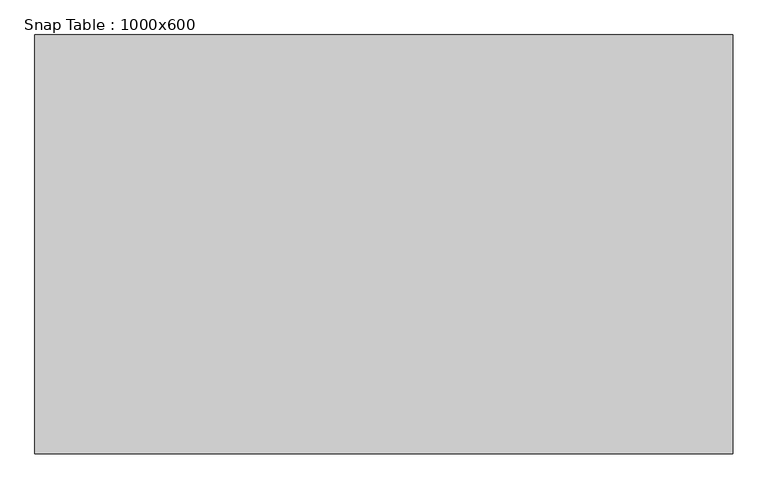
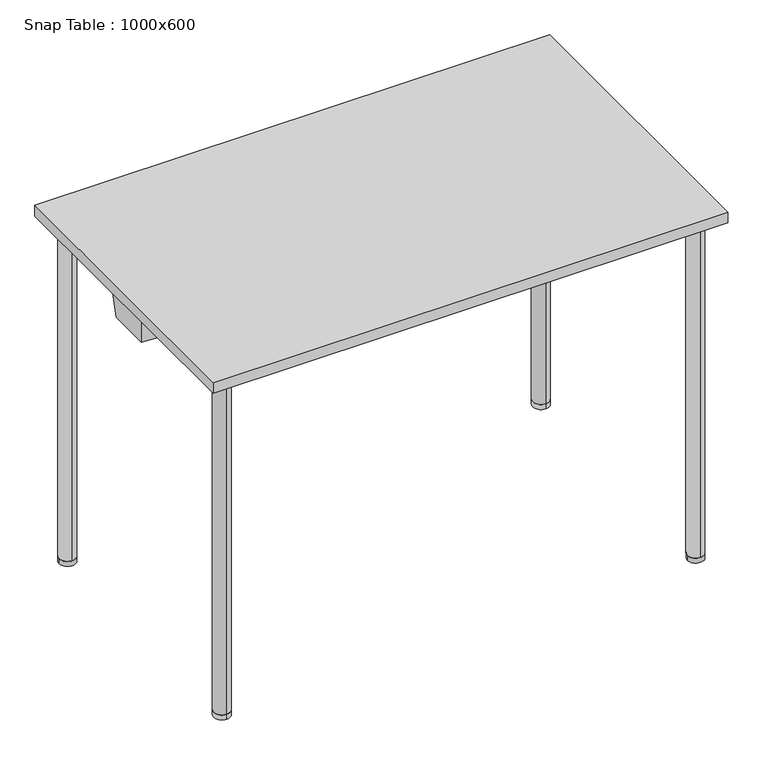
"""IFC4 building model written with IfcOpenShell, lengths in millimetres: furniture geometry, Snap Table : 1000x600."""

from ifc_helpers import new_model, si_unit, point, frame, frame_2d, origin, origin_with_axes, place, context, project, spatial, polyline, circle_curve, ellipse_curve, trimmed, segment, composite_curve, outline, extrude, faceted_brep, source, transform, mapped, element, save
from ifc_brep_helpers import plane_surface, cylinder_surface, revolved_surface, advanced_brep


def snap_table_1000x600_b32a0810(model_context):
    return source(origin(), model_context, "Body", "SolidModel", [
        extrude(outline(composite_curve([segment(trimmed(circle_curve(frame_2d((460.0, -260.0)), 16.0), [point((476.0, -260.0))], [point((444.0, -260.0))], False, "CARTESIAN"), True, "CONTINUOUS"), segment(trimmed(circle_curve(frame_2d((460.0, -260.0)), 16.0), [point((444.0, -260.0))], [point((476.0, -260.0))], False, "CARTESIAN"), True, "CONTINUOUS")], self_intersect=False)), origin_with_axes(), (0.0, 0.0, 1.0), 10.0),
        extrude(outline(composite_curve([segment(trimmed(circle_curve(frame_2d((460.0, 260.0)), 16.0), [point((460.0, 244.0))], [point((460.0, 276.0))], False, "CARTESIAN"), True, "CONTINUOUS"), segment(trimmed(circle_curve(frame_2d((460.0, 260.0)), 16.0), [point((460.0, 276.0))], [point((460.0, 244.0))], False, "CARTESIAN"), True, "CONTINUOUS")], self_intersect=False)), origin_with_axes(), (0.0, 0.0, 1.0), 10.0),
        advanced_brep(
        [(460.0, -276.0, 10.0), (460.0, -244.0, 10.0), (460.0, -276.0, 689.0), (460.0, -244.0, 657.0), (460.0, 276.0, 689.0), (460.0, 244.0, 657.0), (460.0, 276.0, 10.0), (460.0, 244.0, 10.0)],
        [
            (0, 1, circle_curve(frame((460.0, -260.0, 10.0), z_axis=(0.0, 0.0, -1.0), x_axis=(0.0, 1.0, 0.0)), 16.0)),
            (1, 0, circle_curve(frame((460.0, -260.0, 10.0), z_axis=(0.0, 0.0, -1.0), x_axis=(0.0, 1.0, 0.0)), 16.0)),
            (0, 2),
            (2, 3, ellipse_curve(frame((460.0, -260.0, 673.0), z_axis=(0.0, -0.7071067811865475, -0.7071067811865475), x_axis=(0.0, 0.7071067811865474, -0.7071067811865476)), 22.627417, 16.0)),
            (3, 1),
            (3, 2, ellipse_curve(frame((460.0, -260.0, 673.0), z_axis=(0.0, -0.7071067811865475, -0.7071067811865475), x_axis=(0.0, 0.7071067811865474, -0.7071067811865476)), 22.627417, 16.0)),
            (2, 4),
            (4, 5, ellipse_curve(frame((460.0, 260.0, 673.0), z_axis=(0.0, -0.7071067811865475, 0.7071067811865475), x_axis=(0.0, -0.7071067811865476, -0.7071067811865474)), 22.627417, 16.0)),
            (5, 3),
            (5, 4, ellipse_curve(frame((460.0, 260.0, 673.0), z_axis=(0.0, -0.7071067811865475, 0.7071067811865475), x_axis=(0.0, -0.7071067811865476, -0.7071067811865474)), 22.627417, 16.0)),
            (6, 7, circle_curve(frame((460.0, 260.0, 10.0), z_axis=(0.0, 0.0, -1.0), x_axis=(0.0, -1.0, 0.0)), 16.0)),
            (7, 6, circle_curve(frame((460.0, 260.0, 10.0), z_axis=(0.0, 0.0, -1.0), x_axis=(0.0, -1.0, 0.0)), 16.0)),
            (4, 6),
            (7, 5),
        ],
        [
            plane_surface(frame((460.0, -260.0, 10.0), z_axis=(0.0, 0.0, -1.0), x_axis=(-1.0, 0.0, 0.0))),
            cylinder_surface(frame((460.0, -260.0, 10.0), z_axis=(0.0, 0.0, -1.0), x_axis=(0.0, 1.0, 0.0)), 16.0),
            cylinder_surface(frame((460.0, -260.0, 673.0), z_axis=(0.0, -1.0, 0.0), x_axis=(0.0, 0.0, -1.0)), 16.0),
            plane_surface(frame((460.0, 260.0, 10.0), z_axis=(0.0, 0.0, -1.0), x_axis=(-1.0, 0.0, 0.0))),
            cylinder_surface(frame((460.0, 260.0, 673.0), z_axis=(0.0, 0.0, 1.0), x_axis=(0.0, -1.0, 0.0)), 16.0),
        ],
        [
            (0, [[1, 2]]),
            (1, [[-1, 3, 4, 5]]),
            (1, [[-2, -5, 6, -3]]),
            (2, [[-4, 7, 8, 9]]),
            (2, [[-6, -9, 10, -7]]),
            (3, [[11, 12]]),
            (4, [[-8, 13, -12, 14]]),
            (4, [[-10, -14, -11, -13]]),
        ],
    ),
        extrude(outline(composite_curve([segment(trimmed(circle_curve(frame_2d((-460.0470276, 260.0)), 16.0), [point((-476.0470276, 260.0))], [point((-444.0470276, 260.0))], False, "CARTESIAN"), True, "CONTINUOUS"), segment(trimmed(circle_curve(frame_2d((-460.0470276, 260.0)), 16.0), [point((-444.0470276, 260.0))], [point((-476.0470276, 260.0))], False, "CARTESIAN"), True, "CONTINUOUS")], self_intersect=False)), origin_with_axes(), (0.0, 0.0, 1.0), 10.0),
        extrude(outline(composite_curve([segment(trimmed(circle_curve(frame_2d((-460.0470276, -260.0)), 16.0), [point((-460.0470276, -244.0))], [point((-460.0470276, -276.0))], False, "CARTESIAN"), True, "CONTINUOUS"), segment(trimmed(circle_curve(frame_2d((-460.0470276, -260.0)), 16.0), [point((-460.0470276, -276.0))], [point((-460.0470276, -244.0))], False, "CARTESIAN"), True, "CONTINUOUS")], self_intersect=False)), origin_with_axes(), (0.0, 0.0, 1.0), 10.0),
        advanced_brep(
        [(-460.0470276, 276.0, 10.0), (-460.0470276, 244.0, 10.0), (-460.0470276, 276.0, 689.0), (-460.0470276, 244.0, 657.0), (-460.0470276, -276.0, 689.0), (-460.0470276, -244.0, 657.0), (-460.0470276, -276.0, 10.0), (-460.0470276, -244.0, 10.0)],
        [
            (0, 1, circle_curve(frame((-460.0470276, 260.0, 10.0), z_axis=(0.0, 0.0, -1.0), x_axis=(0.0, -1.0, 0.0)), 16.0)),
            (1, 0, circle_curve(frame((-460.0470276, 260.0, 10.0), z_axis=(0.0, 0.0, -1.0), x_axis=(0.0, -1.0, 0.0)), 16.0)),
            (0, 2),
            (2, 3, ellipse_curve(frame((-460.0470276, 260.0, 673.0), z_axis=(0.0, 0.7071067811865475, -0.7071067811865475), x_axis=(0.0, -0.7071067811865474, -0.7071067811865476)), 22.627417, 16.0)),
            (3, 1),
            (3, 2, ellipse_curve(frame((-460.0470276, 260.0, 673.0), z_axis=(0.0, 0.7071067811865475, -0.7071067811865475), x_axis=(0.0, -0.7071067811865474, -0.7071067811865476)), 22.627417, 16.0)),
            (2, 4),
            (4, 5, ellipse_curve(frame((-460.0470276, -260.0, 673.0), z_axis=(0.0, 0.7071067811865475, 0.7071067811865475), x_axis=(0.0, 0.7071067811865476, -0.7071067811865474)), 22.627417, 16.0)),
            (5, 3),
            (5, 4, ellipse_curve(frame((-460.0470276, -260.0, 673.0), z_axis=(0.0, 0.7071067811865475, 0.7071067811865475), x_axis=(0.0, 0.7071067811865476, -0.7071067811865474)), 22.627417, 16.0)),
            (6, 7, circle_curve(frame((-460.0470276, -260.0, 10.0), z_axis=(0.0, 0.0, -1.0), x_axis=(0.0, 1.0, 0.0)), 16.0)),
            (7, 6, circle_curve(frame((-460.0470276, -260.0, 10.0), z_axis=(0.0, 0.0, -1.0), x_axis=(0.0, 1.0, 0.0)), 16.0)),
            (4, 6),
            (7, 5),
        ],
        [
            plane_surface(frame((-460.0470276, 260.0, 10.0), z_axis=(0.0, 0.0, -1.0), x_axis=(1.0, 0.0, 0.0))),
            cylinder_surface(frame((-460.0470276, 260.0, 10.0), z_axis=(0.0, 0.0, -1.0), x_axis=(0.0, -1.0, 0.0)), 16.0),
            cylinder_surface(frame((-460.0470276, 260.0, 673.0), z_axis=(0.0, 1.0, 0.0), x_axis=(0.0, 0.0, -1.0)), 16.0),
            plane_surface(frame((-460.0470276, -260.0, 10.0), z_axis=(0.0, 0.0, -1.0), x_axis=(1.0, 0.0, 0.0))),
            cylinder_surface(frame((-460.0470276, -260.0, 673.0), z_axis=(0.0, 0.0, 1.0), x_axis=(0.0, 1.0, 0.0)), 16.0),
        ],
        [
            (0, [[1, 2]]),
            (1, [[-1, 3, 4, 5]]),
            (1, [[-2, -5, 6, -3]]),
            (2, [[-4, 7, 8, 9]]),
            (2, [[-6, -9, 10, -7]]),
            (3, [[11, 12]]),
            (4, [[-8, 13, -12, 14]]),
            (4, [[-10, -14, -11, -13]]),
        ],
    ),
        extrude(outline(polyline([(500.0, 300.0), (500.0, -300.0), (-500.0, -300.0), (-500.0, 300.0), (500.0, 300.0)])), frame((0.0, 0.0, 698.0), z_axis=(0.0, 0.0, 1.0), x_axis=(1.0, 0.0, 0.0)), (0.0, 0.0, 1.0), 22.0),
        advanced_brep(
        [(-490.8110657, 42.2236058, 643.0), (-457.6910354, 44.5767873, 643.0), (-440.5708933, 36.0824003, 643.0), (440.5710292, 36.0824678, 643.0), (457.6910354, 44.5767873, 643.0), (490.8110657, 42.2236058, 643.0), (490.8110657, -42.2236058, 643.0), (457.6044607, -44.2417031, 643.0), (440.4018781, -36.0497649, 643.0), (-440.4020196, -36.0498323, 643.0), (-457.6044607, -44.2417031, 643.0), (-490.8110657, -42.2236058, 643.0), (-494.8110657, 48.9570516, 698.0), (-494.8110657, -48.9934252, 698.0), (-456.225892, -51.3383995, 698.0), (-434.6205129, -41.049832, 698.0), (434.6203726, -41.0497654, 698.0), (456.225892, -51.3383995, 698.0), (494.8110657, -48.9934252, 698.0), (494.8110657, 48.9570516, 698.0), (456.286594, 51.6942192, 698.0), (434.8989768, 41.0824675, 698.0), (-434.8988421, 41.0824008, 698.0), (-456.286594, 51.6942192, 698.0), (-457.2475737, -46.0789118, 657.2385232), (-476.0, -46.9489596, 673.0), (-456.4614069, -50.125999, 688.6037931), (-444.0, -41.9922101, 673.0), (457.2475737, -46.0789118, 657.2385232), (444.0, -41.9922101, 673.0), (456.4614069, -50.125999, 688.6037931), (476.0, -46.9489596, 673.0), (457.3278029, 46.4175782, 657.2247231), (476.0, 47.1037405, 673.0), (456.5261576, 50.4801582, 688.618336), (444.0, 42.0461233, 673.0), (-457.3278029, 46.4175782, 657.2247231), (-444.0, 42.0461233, 673.0), (-456.5261576, 50.4801582, 688.618336), (-476.0, 47.1037405, 673.0)],
        [
            (0, 1),
            (1, 2),
            (2, 3),
            (3, 4),
            (4, 5),
            (5, 6),
            (6, 7),
            (7, 8),
            (8, 9),
            (9, 10),
            (10, 11),
            (11, 0),
            (12, 13),
            (13, 14),
            (14, 15),
            (15, 16),
            (16, 17),
            (17, 18),
            (18, 19),
            (19, 20),
            (20, 21),
            (21, 22),
            (22, 23),
            (23, 12),
            (11, 13),
            (12, 0),
            (10, 24),
            (24, 25, ellipse_curve(frame((-460.0, -47.9213432, 673.0), z_axis=(0.0601766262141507, 0.9901710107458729, 0.126254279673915), x_axis=(0.42602826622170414, -0.13986196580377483, 0.8938336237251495)), 16.1588249, 16.0)),
            (25, 26, ellipse_curve(frame((-460.0, -47.9213432, 673.0), z_axis=(0.0601766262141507, 0.9901710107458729, 0.126254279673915), x_axis=(0.42602826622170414, -0.13986196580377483, 0.8938336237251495)), 16.1588249, 16.0)),
            (26, 14),
            (9, 15),
            (26, 27, ellipse_curve(frame((-460.0, -49.6114737, 673.0), z_axis=(-0.42650306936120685, 0.8956310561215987, 0.1262542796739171), x_axis=(-0.8587935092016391, -0.4447977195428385, 0.2542217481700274)), 17.8644989, 16.0)),
            (27, 24, ellipse_curve(frame((-460.0, -49.6114737, 673.0), z_axis=(-0.42650306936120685, 0.8956310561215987, 0.1262542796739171), x_axis=(-0.8587935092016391, -0.4447977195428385, 0.2542217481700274)), 17.8644989, 16.0)),
            (8, 16),
            (7, 28),
            (28, 29, ellipse_curve(frame((460.0, -49.6114737, 673.0), z_axis=(0.42650306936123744, 0.8956310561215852, 0.12625427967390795), x_axis=(0.8587935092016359, -0.4447977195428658, 0.25422174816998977)), 17.8644989, 16.0)),
            (29, 30, ellipse_curve(frame((460.0, -49.6114737, 673.0), z_axis=(0.42650306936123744, 0.8956310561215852, 0.12625427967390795), x_axis=(0.8587935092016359, -0.4447977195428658, 0.25422174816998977)), 17.8644989, 16.0)),
            (30, 17),
            (6, 18),
            (30, 31, ellipse_curve(frame((460.0, -47.9213432, 673.0), z_axis=(-0.06017662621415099, 0.9901710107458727, 0.12625427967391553), x_axis=(-0.4260282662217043, -0.13986196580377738, 0.8938336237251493)), 16.1588249, 16.0)),
            (31, 28, ellipse_curve(frame((460.0, -47.9213432, 673.0), z_axis=(-0.06017662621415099, 0.9901710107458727, 0.12625427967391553), x_axis=(-0.4260282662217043, -0.13986196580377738, 0.8938336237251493)), 16.1588249, 16.0)),
            (5, 19),
            (4, 32),
            (32, 33, ellipse_curve(frame((460.0, 48.2405422, 673.0), z_axis=(-0.07030432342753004, -0.9895034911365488, 0.12625427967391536), x_axis=(0.48139832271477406, -0.14450896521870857, -0.8645072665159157)), 16.1697257, 16.0)),
            (33, 34, ellipse_curve(frame((460.0, 48.2405422, 673.0), z_axis=(-0.07030432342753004, -0.9895034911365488, 0.12625427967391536), x_axis=(0.48139832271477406, -0.14450896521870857, -0.8645072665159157)), 16.1697257, 16.0)),
            (34, 20),
            (3, 21),
            (34, 35, ellipse_curve(frame((460.0, 49.9847369, 673.0), z_axis=(0.44090536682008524, -0.8886294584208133, 0.12625427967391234), x_axis=(-0.854294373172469, -0.4586258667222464, -0.2446291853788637)), 18.005255, 16.0)),
            (35, 32, ellipse_curve(frame((460.0, 49.9847369, 673.0), z_axis=(0.44090536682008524, -0.8886294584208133, 0.12625427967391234), x_axis=(-0.854294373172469, -0.4586258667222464, -0.2446291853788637)), 18.005255, 16.0)),
            (2, 22),
            (1, 36),
            (36, 37, ellipse_curve(frame((-460.0, 49.9847369, 673.0), z_axis=(-0.4409053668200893, -0.88862945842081, 0.12625427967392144), x_axis=(0.8542943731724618, -0.4586258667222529, -0.24462918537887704)), 18.005255, 16.0)),
            (37, 38, ellipse_curve(frame((-460.0, 49.9847369, 673.0), z_axis=(-0.4409053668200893, -0.88862945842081, 0.12625427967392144), x_axis=(0.8542943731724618, -0.4586258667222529, -0.24462918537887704)), 18.005255, 16.0)),
            (38, 23),
            (38, 39, ellipse_curve(frame((-460.0, 48.2405422, 673.0), z_axis=(0.07030432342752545, -0.9895034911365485, 0.12625427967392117), x_axis=(-0.481398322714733, -0.14450896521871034, -0.8645072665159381)), 16.1697257, 16.0)),
            (39, 36, ellipse_curve(frame((-460.0, 48.2405422, 673.0), z_axis=(0.07030432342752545, -0.9895034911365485, 0.12625427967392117), x_axis=(-0.481398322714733, -0.14450896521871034, -0.8645072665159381)), 16.1697257, 16.0)),
            (35, 29),
            (31, 33),
            (39, 25),
            (27, 37),
        ],
        [
            plane_surface(frame((-5e-07, 0.0612866, 643.0), z_axis=(0.0, 0.0, -1.0), x_axis=(0.0, -1.0, 0.0))),
            plane_surface(frame((-5e-07, 0.0586803, 698.0), z_axis=(0.0, 0.0, 1.0), x_axis=(0.0, -1.0, 0.0))),
            plane_surface(frame((-494.8110657, -0.0181868, 698.0), z_axis=(-0.997365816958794, 0.0, -0.07253569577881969), x_axis=(0.0, 1.0, 0.0))),
            plane_surface(frame((-475.5184789, -50.1659123, 698.0), z_axis=(-0.0601766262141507, -0.9901710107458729, -0.126254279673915), x_axis=(-0.9981583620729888, 0.06066204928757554, 0.0))),
            plane_surface(frame((-445.4232025, -46.1941158, 698.0), z_axis=(0.42650306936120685, -0.8956310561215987, -0.1262542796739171), x_axis=(-0.9028557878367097, -0.4299435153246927, 0.0))),
            plane_surface(frame((-7.01e-05, -41.0497986, 698.0), z_axis=(7.621604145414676e-08, -0.9958932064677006, -0.09053574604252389), x_axis=(-0.9999999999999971, -7.653033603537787e-08, 0.0))),
            plane_surface(frame((445.4231323, -46.1940824, 698.0), z_axis=(-0.42650306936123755, -0.8956310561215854, -0.12625427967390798), x_axis=(-0.9028557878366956, 0.4299435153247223, 0.0))),
            plane_surface(frame((475.5184789, -50.1659123, 698.0), z_axis=(0.060176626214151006, -0.9901710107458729, -0.12625427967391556), x_axis=(-0.9981583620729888, -0.06066204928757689, 0.0))),
            plane_surface(frame((494.8110657, -0.0181868, 698.0), z_axis=(0.9973658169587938, 0.0, -0.07253569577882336), x_axis=(0.0, -1.0, 0.0))),
            plane_surface(frame((475.5488298, 50.3256354, 698.0), z_axis=(0.07030432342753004, 0.9895034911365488, -0.12625427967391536), x_axis=(0.9974854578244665, -0.07087144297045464, 0.0))),
            plane_surface(frame((445.5927854, 46.3883433, 698.0), z_axis=(-0.44090536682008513, 0.8886294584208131, -0.1262542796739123), x_axis=(0.8957977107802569, 0.44446199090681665, 0.0))),
            plane_surface(frame((6.73e-05, 41.082434, 698.0), z_axis=(-7.620690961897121e-08, 0.995893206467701, -0.09053574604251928), x_axis=(0.9999999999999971, 7.652116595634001e-08, 0.0))),
            plane_surface(frame((-445.5927181, 46.3883099, 698.0), z_axis=(0.4409053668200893, 0.88862945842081, -0.12625427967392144), x_axis=(0.8957977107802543, -0.4444619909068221, 0.0))),
            plane_surface(frame((-475.5488298, 50.3256354, 698.0), z_axis=(-0.07030432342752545, 0.9895034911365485, -0.12625427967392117), x_axis=(0.997485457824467, 0.07087144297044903, 0.0))),
            revolved_surface(polyline([(476.0, -57.55756207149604, 673.0), (476.0, 58.24241257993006, 673.0)]), (460.0, 70.0, 673.0), (0.0, -1.0, 0.0)),
            revolved_surface(polyline([(-476.0, -57.55756207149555, 673.0), (-476.0, 58.242412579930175, 673.0)]), (-460.0, 70.0, 673.0), (0.0, -1.0, 0.0)),
        ],
        [
            (0, [[1, 2, 3, 4, 5, 6, 7, 8, 9, 10, 11, 12]]),
            (1, [[13, 14, 15, 16, 17, 18, 19, 20, 21, 22, 23, 24]]),
            (2, [[-12, 25, -13, 26]]),
            (3, [[-11, 27, 28, 29, 30, -14, -25]]),
            (4, [[-10, 31, -15, -30, 32, 33, -27]]),
            (5, [[-9, 34, -16, -31]]),
            (6, [[-8, 35, 36, 37, 38, -17, -34]]),
            (7, [[-7, 39, -18, -38, 40, 41, -35]]),
            (8, [[-6, 42, -19, -39]]),
            (9, [[-5, 43, 44, 45, 46, -20, -42]]),
            (10, [[-4, 47, -21, -46, 48, 49, -43]]),
            (11, [[-3, 50, -22, -47]]),
            (12, [[-2, 51, 52, 53, 54, -23, -50]]),
            (13, [[-1, -26, -24, -54, 55, 56, -51]]),
            (14, [[57, -36, -41, 58, -44, -49]]),
            (14, [[-57, -48, -45, -58, -40, -37]]),
            (15, [[59, -28, -33, 60, -52, -56]]),
            (15, [[-59, -55, -53, -60, -32, -29]]),
        ],
    ),
        faceted_brep([(430.1271057, 182.1409864, 643.0), (430.1271057, 227.0366315, 643.0), (441.3990784, 227.0366315, 643.0), (441.3990784, 182.1409864, 643.0), (426.2186584, 178.0138349, 688.0), (444.2631531, 178.0138349, 688.0), (444.2631531, 231.163783, 688.0), (426.2186584, 231.163783, 688.0)], [[[0, 1, 2, 3]], [[4, 5, 6, 7]], [[5, 4, 0, 3]], [[6, 5, 3, 2]], [[7, 6, 2, 1]], [[4, 7, 1, 0]]]),
        extrude(outline(polyline([(426.2186584, 231.163783), (477.86026, 231.163783), (477.86026, 178.0138349), (426.2186584, 178.0138349), (426.2186584, 231.163783)])), frame((0.0, 0.0, 688.0), z_axis=(0.0, 0.0, 1.0), x_axis=(1.0, 0.0, 0.0)), (0.0, 0.0, 1.0), 10.0),
        faceted_brep([(430.1271057, -182.1409864, 643.0), (441.3990784, -182.1409864, 643.0), (441.3990784, -227.0366315, 643.0), (430.1271057, -227.0366315, 643.0), (426.2186584, -178.0138349, 688.0), (426.2186584, -231.163783, 688.0), (444.2631531, -231.163783, 688.0), (444.2631531, -178.0138349, 688.0)], [[[0, 1, 2, 3]], [[4, 5, 6, 7]], [[4, 7, 1, 0]], [[7, 6, 2, 1]], [[6, 5, 3, 2]], [[5, 4, 0, 3]]]),
        extrude(outline(polyline([(426.2186584, -231.163783), (426.2186584, -178.0138349), (477.86026, -178.0138349), (477.86026, -231.163783), (426.2186584, -231.163783)])), frame((0.0, 0.0, 688.0), z_axis=(0.0, 0.0, 1.0), x_axis=(1.0, 0.0, 0.0)), (0.0, 0.0, 1.0), 10.0),
        faceted_brep([(-430.1271057, 182.1409864, 643.0), (-441.3990784, 182.1409864, 643.0), (-441.3990784, 227.0366315, 643.0), (-430.1271057, 227.0366315, 643.0), (-426.2186584, 178.0138349, 688.0), (-426.2186584, 231.163783, 688.0), (-444.2631531, 231.163783, 688.0), (-444.2631531, 178.0138349, 688.0)], [[[0, 1, 2, 3]], [[4, 5, 6, 7]], [[4, 7, 1, 0]], [[7, 6, 2, 1]], [[6, 5, 3, 2]], [[5, 4, 0, 3]]]),
        extrude(outline(polyline([(-426.2186584, 231.163783), (-426.2186584, 178.0138349), (-477.86026, 178.0138349), (-477.86026, 231.163783), (-426.2186584, 231.163783)])), frame((0.0, 0.0, 688.0), z_axis=(0.0, 0.0, 1.0), x_axis=(1.0, 0.0, 0.0)), (0.0, 0.0, 1.0), 10.0),
        faceted_brep([(-430.1271057, -182.1409864, 643.0), (-430.1271057, -227.0366315, 643.0), (-441.3990784, -227.0366315, 643.0), (-441.3990784, -182.1409864, 643.0), (-426.2186584, -178.0138349, 688.0), (-444.2631531, -178.0138349, 688.0), (-444.2631531, -231.163783, 688.0), (-426.2186584, -231.163783, 688.0)], [[[0, 1, 2, 3]], [[4, 5, 6, 7]], [[5, 4, 0, 3]], [[6, 5, 3, 2]], [[7, 6, 2, 1]], [[4, 7, 1, 0]]]),
        extrude(outline(polyline([(-426.2186584, -231.163783), (-477.86026, -231.163783), (-477.86026, -178.0138349), (-426.2186584, -178.0138349), (-426.2186584, -231.163783)])), frame((0.0, 0.0, 688.0), z_axis=(0.0, 0.0, 1.0), x_axis=(1.0, 0.0, 0.0)), (0.0, 0.0, 1.0), 10.0),
    ])


if __name__ == "__main__":
    model = new_model("IFC4")
    model_context = context("Model", 3, world=origin())
    ifc_project = project(units=[si_unit("LENGTHUNIT", "METRE", prefix="MILLI")], contexts=[model_context])
    site = spatial("IfcSite", under=ifc_project)
    building = spatial("IfcBuilding", under=site)
    placement = place(None, origin())
    snap_table_1000x600_shape = snap_table_1000x600_b32a0810(model_context)
    element("IfcFurniture", 1, ObjectType="Snap Table : 1000x600", at=placement, inside=building, context=model_context, shape_type="MappedRepresentation", body=[
        mapped(snap_table_1000x600_shape, transform((0.0, 0.0, 0.0), x_axis=(1.0, 0.0, 0.0), y_axis=(0.0, 1.0, 0.0), z_axis=(0.0, 0.0, 1.0))),
    ])
    save(model, "model.ifc")
